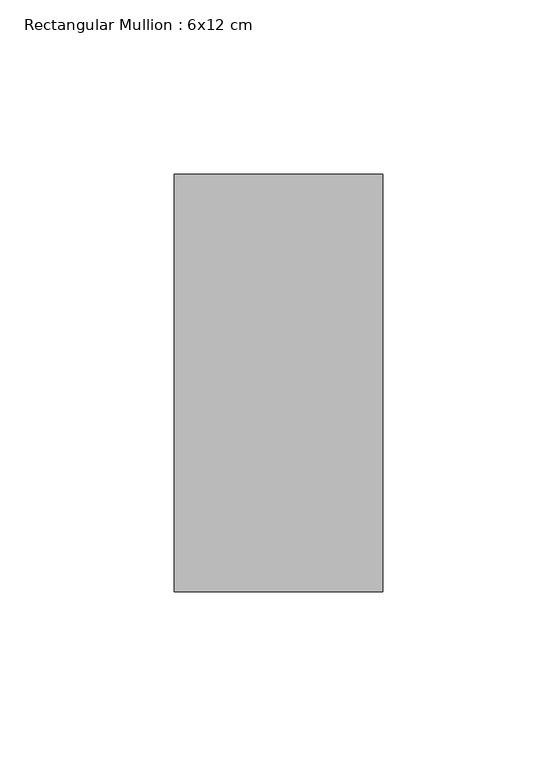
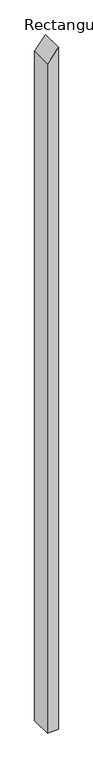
"""IFC4 building model written with IfcOpenShell, lengths in millimetres: member geometry, Rectangular Mullion : 6x12 cm."""

from ifc_helpers import new_model, si_unit, frame, origin, place, context, project, spatial, polyline, outline, extrude, source, transform, mapped, element, save


def rectangular_mullion_6x12_cm_48885436(model_context):
    return source(origin(), model_context, "Body", "SweptSolid", [
        extrude(outline(polyline([(-58.5076842, 30.0), (-133.3680498, -30.0), (-4005.8727291, -30.0), (-4005.8727291, 30.0), (-58.5076842, 30.0)])), frame((0.0, 85.0, 0.0), z_axis=(0.0, 1.0, 0.0), x_axis=(0.0, 0.0, 1.0)), (0.0, 0.0, 1.0), 120.0),
    ])


if __name__ == "__main__":
    model = new_model("IFC4")
    model_context = context("Model", 3, world=origin())
    ifc_project = project(units=[si_unit("LENGTHUNIT", "METRE", prefix="MILLI")], contexts=[model_context])
    site = spatial("IfcSite", under=ifc_project)
    building = spatial("IfcBuilding", under=site)
    placement = place(None, origin())
    rectangular_mullion_6x12_cm_shape = rectangular_mullion_6x12_cm_48885436(model_context)
    element("IfcMember", 1, ObjectType="Rectangular Mullion : 6x12 cm", at=placement, inside=building, context=model_context, shape_type="MappedRepresentation", body=[
        mapped(rectangular_mullion_6x12_cm_shape, transform((0.0, 0.0, 0.0), x_axis=(1.0, 0.0, 0.0), y_axis=(0.0, 1.0, 0.0), z_axis=(0.0, 0.0, 1.0))),
    ])
    save(model, "model.ifc")
